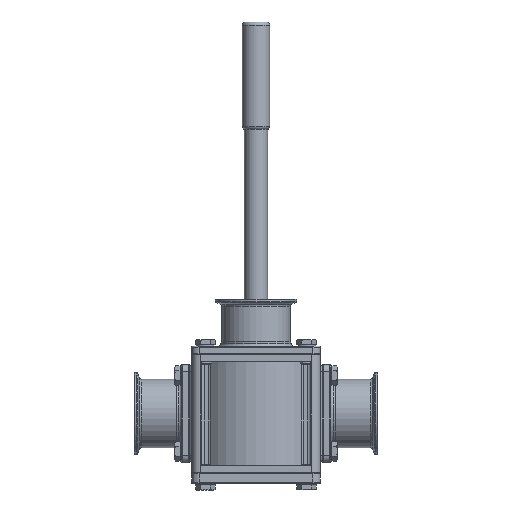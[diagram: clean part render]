
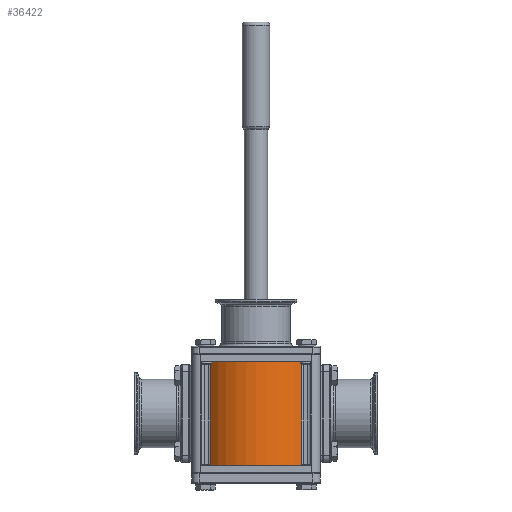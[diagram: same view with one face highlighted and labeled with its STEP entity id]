
A CAD part, front view. The second image highlights one B-rep face of the part: STEP entity #36422.
In plain terms, the highlighted cylindrical face has radius 59 mm (diameter 118 mm), a partial arc.
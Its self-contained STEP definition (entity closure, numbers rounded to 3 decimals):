
#839 = DIRECTION ( 'NONE',  ( 0., 0., 1. ) ) ;
#2771 = CARTESIAN_POINT ( 'NONE',  ( 0., 0., 49. ) ) ;
#3229 = VECTOR ( 'NONE', #10736, 1000. ) ;
#4504 = CIRCLE ( 'NONE', #27168, 59. ) ;
#5775 = DIRECTION ( 'NONE',  ( 0., 0., -1. ) ) ;
#6374 = CYLINDRICAL_SURFACE ( 'NONE', #29160, 59. ) ;
#7177 = DIRECTION ( 'NONE',  ( 0., 0., -1. ) ) ;
#7379 = DIRECTION ( 'NONE',  ( 0., 0., 1. ) ) ;
#7383 = LINE ( 'NONE', #16443, #3229 ) ;
#9909 = DIRECTION ( 'NONE',  ( 1., 0., 0. ) ) ;
#10736 = DIRECTION ( 'NONE',  ( 0., 0., 1. ) ) ;
#11211 = VERTEX_POINT ( 'NONE', #14140 ) ;
#11432 = FACE_OUTER_BOUND ( 'NONE', #28001, .T. ) ;
#13295 = ORIENTED_EDGE ( 'NONE', *, *, #36440, .F. ) ;
#13318 = CARTESIAN_POINT ( 'NONE',  ( 43.4, -39.968, -49. ) ) ;
#14140 = CARTESIAN_POINT ( 'NONE',  ( 43.4, -39.968, -49. ) ) ;
#14197 = EDGE_CURVE ( 'NONE', #16005, #34877, #7383, .T. ) ;
#15870 = CARTESIAN_POINT ( 'NONE',  ( 0., 0., -49. ) ) ;
#15897 = VERTEX_POINT ( 'NONE', #23296 ) ;
#16005 = VERTEX_POINT ( 'NONE', #27186 ) ;
#16443 = CARTESIAN_POINT ( 'NONE',  ( -43.4, -39.968, -49. ) ) ;
#17256 = ORIENTED_EDGE ( 'NONE', *, *, #26041, .T. ) ;
#18108 = LINE ( 'NONE', #13318, #19516 ) ;
#18997 = CARTESIAN_POINT ( 'NONE',  ( 0., 0., -49. ) ) ;
#19516 = VECTOR ( 'NONE', #7379, 1000. ) ;
#21744 = ORIENTED_EDGE ( 'NONE', *, *, #29680, .T. ) ;
#23296 = CARTESIAN_POINT ( 'NONE',  ( 43.4, -39.968, 49. ) ) ;
#26041 = EDGE_CURVE ( 'NONE', #11211, #15897, #18108, .T. ) ;
#26891 = DIRECTION ( 'NONE',  ( 1., 0., 0. ) ) ;
#27116 = AXIS2_PLACEMENT_3D ( 'NONE', #2771, #5775, #26891 ) ;
#27168 = AXIS2_PLACEMENT_3D ( 'NONE', #18997, #7177, #9909 ) ;
#27186 = CARTESIAN_POINT ( 'NONE',  ( -43.4, -39.968, -49. ) ) ;
#28001 = EDGE_LOOP ( 'NONE', ( #21744, #37093, #13295, #17256 ) ) ;
#29160 = AXIS2_PLACEMENT_3D ( 'NONE', #15870, #839, #30555 ) ;
#29680 = EDGE_CURVE ( 'NONE', #15897, #34877, #32464, .T. ) ;
#30555 = DIRECTION ( 'NONE',  ( 1., 0., 0. ) ) ;
#32464 = CIRCLE ( 'NONE', #27116, 59. ) ;
#34877 = VERTEX_POINT ( 'NONE', #37130 ) ;
#36422 = ADVANCED_FACE ( 'NONE', ( #11432 ), #6374, .T. ) ;
#36440 = EDGE_CURVE ( 'NONE', #11211, #16005, #4504, .T. ) ;
#37093 = ORIENTED_EDGE ( 'NONE', *, *, #14197, .F. ) ;
#37130 = CARTESIAN_POINT ( 'NONE',  ( -43.4, -39.968, 49. ) ) ;
